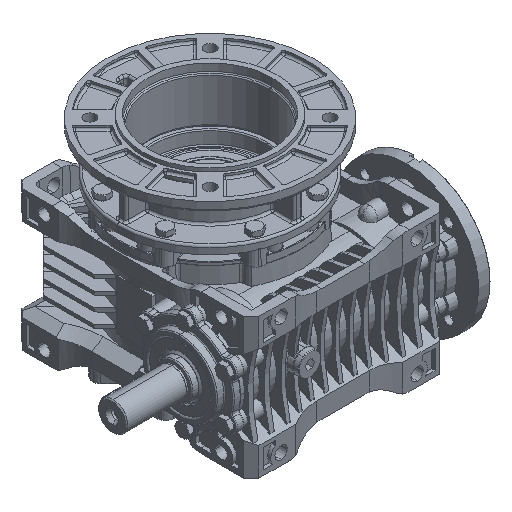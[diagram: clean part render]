
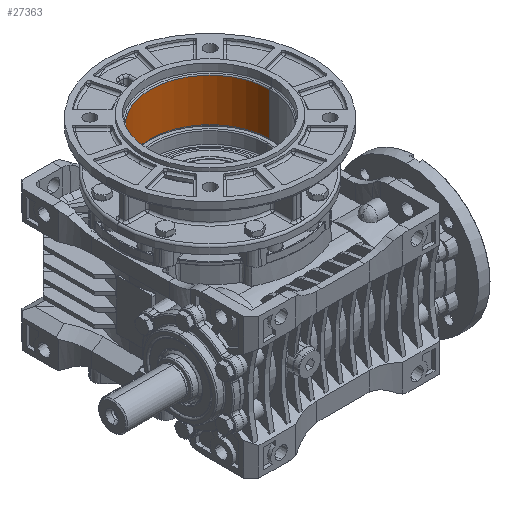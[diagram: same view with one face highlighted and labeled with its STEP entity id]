
A CAD part, isometric view. The second image highlights one B-rep face of the part: STEP entity #27363.
In plain terms, the highlighted cylindrical face has radius 58 mm (diameter 116 mm), a partial arc.
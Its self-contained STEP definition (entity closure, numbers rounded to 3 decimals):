
#2812 = ORIENTED_EDGE ( 'NONE', *, *, #25338, .T. ) ;
#7168 = AXIS2_PLACEMENT_3D ( 'NONE', #49799, #22571, #107352 ) ;
#8609 = LINE ( 'NONE', #85760, #69340 ) ;
#12981 = AXIS2_PLACEMENT_3D ( 'NONE', #64803, #102166, #26845 ) ;
#13656 = EDGE_LOOP ( 'NONE', ( #82407, #115489, #27607, #2812 ) ) ;
#16044 = CARTESIAN_POINT ( 'NONE',  ( -58., 0., 118.5 ) ) ;
#18535 = CARTESIAN_POINT ( 'NONE',  ( 58., 0., 77. ) ) ;
#22571 = DIRECTION ( 'NONE',  ( 0., 0., 1. ) ) ;
#25338 = EDGE_CURVE ( 'NONE', #55017, #90814, #81810, .T. ) ;
#26845 = DIRECTION ( 'NONE',  ( 1., 0., 0. ) ) ;
#27363 = ADVANCED_FACE ( 'NONE', ( #53457 ), #84429, .F. ) ;
#27607 = ORIENTED_EDGE ( 'NONE', *, *, #40954, .T. ) ;
#32321 = VERTEX_POINT ( 'NONE', #90882 ) ;
#36345 = DIRECTION ( 'NONE',  ( 0., 0., 1. ) ) ;
#40954 = EDGE_CURVE ( 'NONE', #106649, #55017, #62066, .T. ) ;
#44569 = CARTESIAN_POINT ( 'NONE',  ( 0., 0., 151.101 ) ) ;
#47354 = CIRCLE ( 'NONE', #12981, 58. ) ;
#49799 = CARTESIAN_POINT ( 'NONE',  ( 0., 0., 118.5 ) ) ;
#50052 = EDGE_CURVE ( 'NONE', #32321, #90814, #8609, .T. ) ;
#52554 = DIRECTION ( 'NONE',  ( 0., 0., 1. ) ) ;
#53457 = FACE_OUTER_BOUND ( 'NONE', #13656, .T. ) ;
#55017 = VERTEX_POINT ( 'NONE', #116385 ) ;
#62066 = LINE ( 'NONE', #100669, #111493 ) ;
#62461 = AXIS2_PLACEMENT_3D ( 'NONE', #44569, #36345, #123050 ) ;
#64803 = CARTESIAN_POINT ( 'NONE',  ( 0., 0., 77. ) ) ;
#69340 = VECTOR ( 'NONE', #116126, 1000. ) ;
#81810 = CIRCLE ( 'NONE', #7168, 58. ) ;
#82407 = ORIENTED_EDGE ( 'NONE', *, *, #50052, .F. ) ;
#84429 = CYLINDRICAL_SURFACE ( 'NONE', #62461, 58. ) ;
#85760 = CARTESIAN_POINT ( 'NONE',  ( -58., 0., 151.101 ) ) ;
#90814 = VERTEX_POINT ( 'NONE', #16044 ) ;
#90882 = CARTESIAN_POINT ( 'NONE',  ( -58., 0., 77. ) ) ;
#100669 = CARTESIAN_POINT ( 'NONE',  ( 58., 0., 151.101 ) ) ;
#102166 = DIRECTION ( 'NONE',  ( 0., 0., 1. ) ) ;
#103869 = EDGE_CURVE ( 'NONE', #106649, #32321, #47354, .T. ) ;
#106649 = VERTEX_POINT ( 'NONE', #18535 ) ;
#107352 = DIRECTION ( 'NONE',  ( -1., 0., 0. ) ) ;
#111493 = VECTOR ( 'NONE', #52554, 1000. ) ;
#115489 = ORIENTED_EDGE ( 'NONE', *, *, #103869, .F. ) ;
#116126 = DIRECTION ( 'NONE',  ( 0., 0., 1. ) ) ;
#116385 = CARTESIAN_POINT ( 'NONE',  ( 58., 0., 118.5 ) ) ;
#123050 = DIRECTION ( 'NONE',  ( 1., 0., 0. ) ) ;
